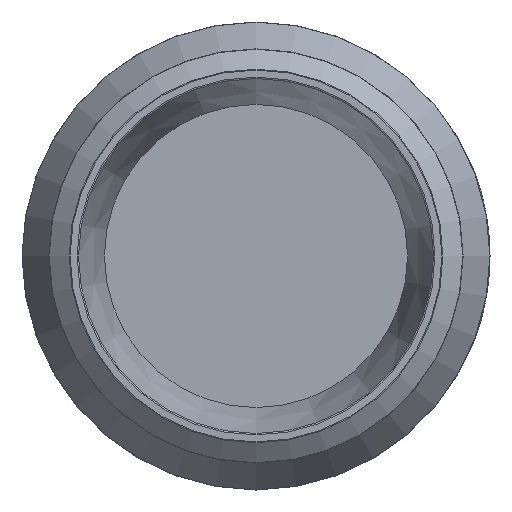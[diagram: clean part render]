
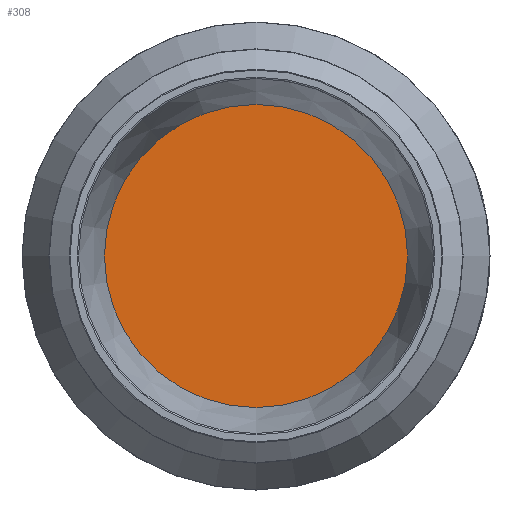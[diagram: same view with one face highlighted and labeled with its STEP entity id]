
A CAD part, left-side view. The second image highlights one B-rep face of the part: STEP entity #308.
In plain terms, the highlighted planar face has unit normal (-1, 0, 0).
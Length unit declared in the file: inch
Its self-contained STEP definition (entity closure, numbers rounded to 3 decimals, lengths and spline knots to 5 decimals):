
#308 = ADVANCED_FACE( '', ( #782 ), #783, .F. );
#782 = FACE_OUTER_BOUND( '', #1570, .T. );
#783 = PLANE( '', #1571 );
#1570 = EDGE_LOOP( '', ( #4314 ) );
#1571 = AXIS2_PLACEMENT_3D( '', #4315, #4316, #4317 );
#4314 = ORIENTED_EDGE( '', *, *, #5917, .T. );
#4315 = CARTESIAN_POINT( '', ( 0.67923, 0., 1.0525 ) );
#4316 = DIRECTION( '', ( 1., 0., 0. ) );
#4317 = DIRECTION( '', ( 0., 0., -1. ) );
#5917 = EDGE_CURVE( '', #6793, #6793, #6794, .T. );
#6793 = VERTEX_POINT( '', #8269 );
#6794 = CIRCLE( '', #8270, 1.0525 );
#8269 = CARTESIAN_POINT( '', ( 0.67923, 0., 1.0525 ) );
#8270 = AXIS2_PLACEMENT_3D( '', #10632, #10633, #10634 );
#10632 = CARTESIAN_POINT( '', ( 0.67923, 0., 0. ) );
#10633 = DIRECTION( '', ( -1., 0., 0. ) );
#10634 = DIRECTION( '', ( 0., 0., 1. ) );
